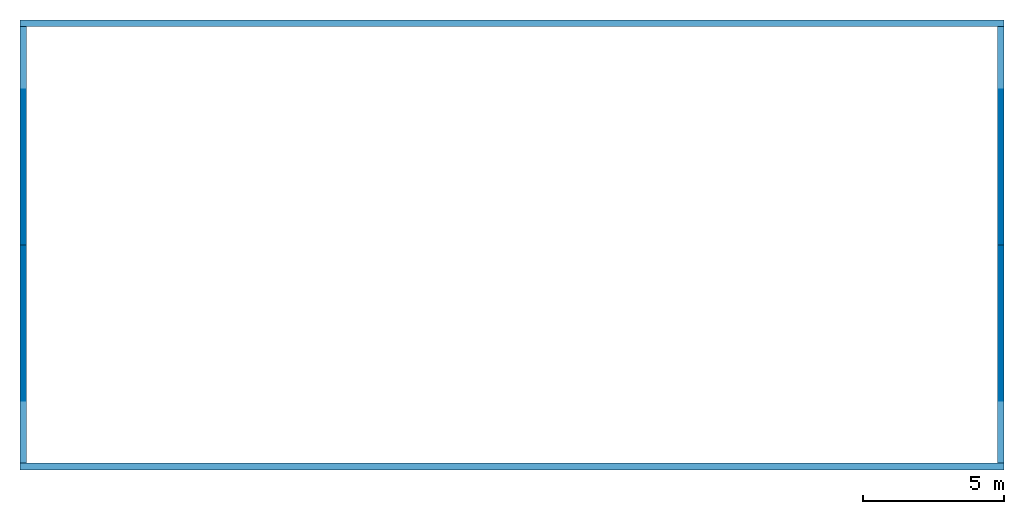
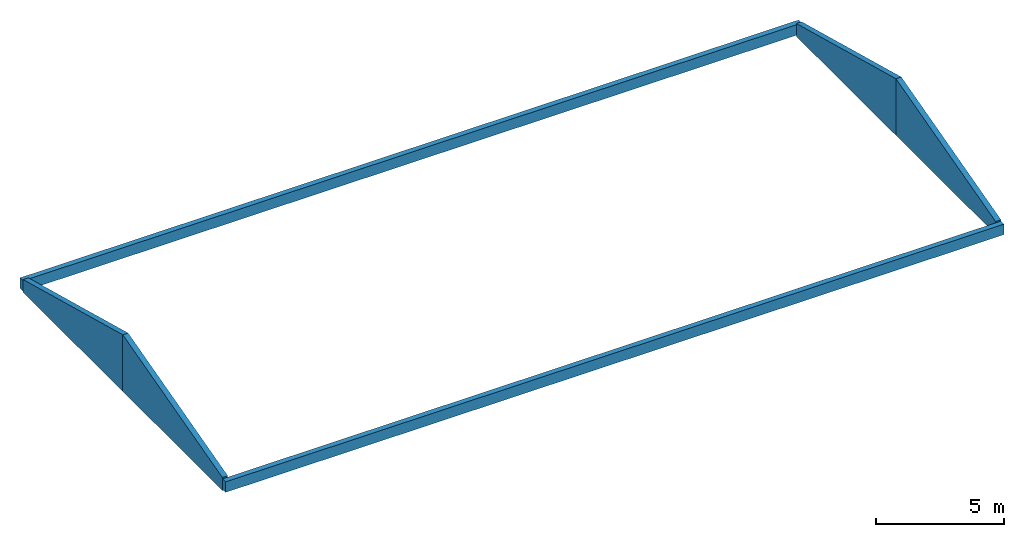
# One storey: 6 walls.
"""IFC4 building model written with IfcOpenShell, lengths in metres."""

from ifc_helpers import new_model, entity, si_unit, converted_unit, frame, origin_with_axes, origin_2d_with_axis, place, context, subcontext, project, spatial, indexed_curve, outline, extrude, clip, halfspace, material, layer, layer_set, layer_usage, type_object, element, save


model = new_model("IFC4")

# Units and contexts
model_context = context("Model", 3, precision=1e-05, world=origin_with_axes())
plan_context = context("Plan", 2, precision=1e-05, world=origin_2d_with_axis())
body_context = subcontext(model_context, "Body", "Model", "MODEL_VIEW")
ifc_project = project(units=[converted_unit("PLANEANGLEUNIT", "degree", entity("IfcReal", 0.0174532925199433), si_unit("PLANEANGLEUNIT", "RADIAN"), dimensions=[0, 0, 0, 0, 0, 0, 0]), si_unit("AREAUNIT", "SQUARE_METRE"), si_unit("VOLUMEUNIT", "CUBIC_METRE"), si_unit("LENGTHUNIT", "METRE")], contexts=[model_context, plan_context])

# Site, building, storey
site_placement = place(None, origin_with_axes())
site = spatial("IfcSite", under=ifc_project, at=site_placement, Name="My Site")
building_placement = place(site_placement, origin_with_axes())
building = spatial("IfcBuilding", under=site, at=building_placement, Name="Werkhalle")
storey_placement = place(building_placement, frame((0.0, 0.0, 5.94999980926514), z_axis=(0.0, 0.0, 1.0), x_axis=(1.0, 0.0, 0.0)))
storey = spatial("IfcBuildingStorey", under=building, at=storey_placement, Name="04 Dachgeschoss")

# Walls
ifc_material = material(Name="Kalksandstein", Category="Mauerwerk")
ifc_layer = layer(ifc_material, 0.239999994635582)
ifc_layer_set = layer_set([ifc_layer], Name="Kalksand 24 cm")
ifc_layer_usage_1 = layer_usage(ifc_layer_set, "AXIS2", "POSITIVE", 0.0)
wall_type = type_object("IfcWallType", Name="Kalksandstein", PredefinedType="STANDARD", material=ifc_layer_set)
wall_1_placement = place(storey_placement, frame((0.0, 0.0, 0.0500001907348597), z_axis=(0.0, 0.0, 1.0), x_axis=(1.0, 0.0, 0.0)))
element("IfcWall", 1, at=wall_1_placement, inside=storey, type_object=wall_type, material=ifc_layer_usage_1, Name="Wall", context=body_context, shape_type="SweptSolid", body=[
    extrude(outline(indexed_curve([(0.0, 0.0), (0.0, 0.239999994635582), (35.000003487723, 0.239999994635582), (35.000003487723, 0.0), (0.0, 0.0)], self_intersect=False)), origin_with_axes(), (0.0, 0.0, 1.0), 0.5),
])
ifc_layer_usage_2 = layer_usage(ifc_layer_set, "AXIS2", "POSITIVE", 0.0)
wall_2_placement = place(storey_placement, frame((0.0, 15.7600002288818, 0.0500001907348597), z_axis=(0.0, 0.0, 1.0), x_axis=(1.0, 0.0, 0.0)))
element("IfcWall", 2, at=wall_2_placement, inside=storey, type_object=wall_type, material=ifc_layer_usage_2, Name="Wall", context=body_context, shape_type="SweptSolid", body=[
    extrude(outline(indexed_curve([(0.0, 0.0), (0.0, 0.239999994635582), (35.000003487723, 0.239999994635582), (35.000003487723, 0.0), (0.0, 0.0)], self_intersect=False)), origin_with_axes(), (0.0, 0.0, 1.0), 0.5),
])
ifc_layer_usage_3 = layer_usage(ifc_layer_set, "AXIS2", "POSITIVE", 0.0)
wall_3_placement = place(storey_placement, frame((35.0000038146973, 0.239999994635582, -3.5527136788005e-15), z_axis=(0.0, 0.0, 1.0), x_axis=(7.54979012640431e-08, 0.999999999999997, 0.0)))
element("IfcWall", 3, at=wall_3_placement, inside=storey, type_object=wall_type, material=ifc_layer_usage_3, Name="Wall", context=body_context, shape_type="Clipping", body=[
    clip(extrude(outline(indexed_curve([(0.0, 0.0), (0.0, 0.239999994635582), (7.76000011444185, 0.239999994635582), (7.76000011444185, 0.0), (0.0, 0.0)], self_intersect=False)), origin_with_axes(), (0.0, 0.0, 1.0), 8.64359391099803), halfspace(frame((7.76000022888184, -1.30336547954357e-06, 2.69359397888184), z_axis=(-0.258819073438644, -8.12475704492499e-08, 0.965925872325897), x_axis=(3.13916473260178e-07, -1.0, 0.0)), False)),
])
ifc_layer_usage_4 = layer_usage(ifc_layer_set, "AXIS2", "POSITIVE", 0.0)
wall_4_placement = place(storey_placement, frame((0.0, 15.7600002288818, -3.5527136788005e-15), z_axis=(0.0, 0.0, 1.0), x_axis=(1.19248806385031e-08, -1.0, 0.0)))
element("IfcWall", 4, at=wall_4_placement, inside=storey, type_object=wall_type, material=ifc_layer_usage_4, Name="Giebelwand", context=body_context, shape_type="Clipping", body=[
    clip(extrude(outline(indexed_curve([(0.0, 0.0), (0.0, 0.239999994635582), (7.76000011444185, 0.239999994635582), (7.76000011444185, 0.0), (0.0, 0.0)], self_intersect=False)), origin_with_axes(), (0.0, 0.0, 1.0), 8.64359391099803), halfspace(frame((7.76000022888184, -1.30336547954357e-06, 2.69359397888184), z_axis=(-0.258819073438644, -8.12475704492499e-08, 0.965925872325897), x_axis=(3.13916473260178e-07, -1.0, 0.0)), False)),
])
ifc_layer_usage_5 = layer_usage(ifc_layer_set, "AXIS2", "POSITIVE", 0.0)
wall_5_placement = place(storey_placement, frame((0.239999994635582, 0.239999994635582, -3.5527136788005e-15), z_axis=(0.0, 0.0, 1.0), x_axis=(3.13916473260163e-07, 0.999999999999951, 0.0)))
element("IfcWall", 5, at=wall_5_placement, inside=storey, type_object=wall_type, material=ifc_layer_usage_5, Name="Wall", context=body_context, shape_type="Clipping", body=[
    clip(extrude(outline(indexed_curve([(0.0, 0.0), (0.0, 0.239999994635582), (7.76000011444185, 0.239999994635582), (7.76000011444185, 0.0), (0.0, 0.0)], self_intersect=False)), origin_with_axes(), (0.0, 0.0, 1.0), 8.64359391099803), halfspace(frame((7.76000022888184, -1.30336547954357e-06, 2.69359397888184), z_axis=(-0.258819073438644, -8.12475704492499e-08, 0.965925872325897), x_axis=(3.13916473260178e-07, -1.0, 0.0)), False)),
])
ifc_layer_usage_6 = layer_usage(ifc_layer_set, "AXIS2", "POSITIVE", 0.0)
wall_6_placement = place(storey_placement, frame((34.7599983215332, 15.7600002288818, -3.5527136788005e-15), z_axis=(0.0, 0.0, 1.0), x_axis=(1.19248806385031e-08, -1.0, 0.0)))
element("IfcWall", 6, at=wall_6_placement, inside=storey, type_object=wall_type, material=ifc_layer_usage_6, Name="Giebelwand", context=body_context, shape_type="Clipping", body=[
    clip(extrude(outline(indexed_curve([(0.0, 0.0), (0.0, 0.239999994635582), (7.76000011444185, 0.239999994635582), (7.76000011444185, 0.0), (0.0, 0.0)], self_intersect=False)), origin_with_axes(), (0.0, 0.0, 1.0), 8.64359391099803), halfspace(frame((7.76000022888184, -1.30336547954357e-06, 2.69359397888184), z_axis=(-0.258819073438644, -8.12475704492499e-08, 0.965925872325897), x_axis=(3.13916473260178e-07, -1.0, 0.0)), False)),
])

save(model, "model.ifc")
